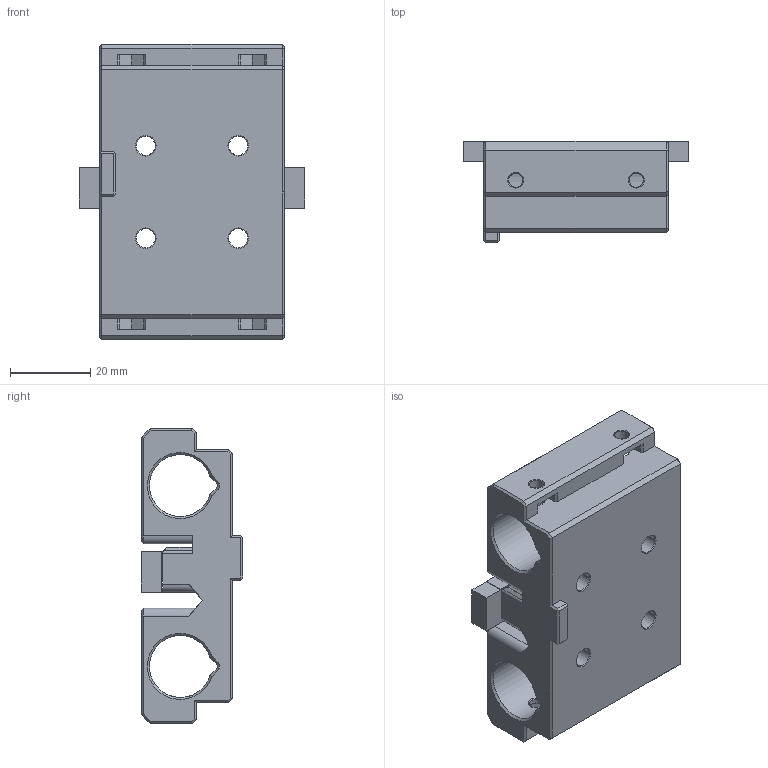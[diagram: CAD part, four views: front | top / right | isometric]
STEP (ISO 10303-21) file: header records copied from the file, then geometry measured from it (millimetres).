
FILE_DESCRIPTION(('CATIA V5 STEP Exchange'),'2;1');
FILE_NAME('D:\_이전 노트북\Cremaker모델링\Cremaker_profile-Metal(5차)-(Final)\(1.8)X-carriage.stp','2020-10-23T05:19:17+00:00',('none'),('none'),'CATIA Version 5 Release 20 GA (IN-10)','CATIA V5 STEP AP203','none');
FILE_SCHEMA(('CONFIG_CONTROL_DESIGN'));
Length unit declared in the file: millimetre
Products named in the file (1): (1.8)X-carriage
Bounding box: 56 x 25.2 x 73.4 mm (x, y, z)
Volume: 46794.4 mm3; surface area: 21806.6 mm2
Topology: 3 solids, 5 shells, 343 faces, 878 edges, 551 vertices
Faces by surface type: plane 188, cone 60, cylinder 44, extrusion 43, bspline 8
Entity records: 11794 total; most frequent: CARTESIAN_POINT 4046, ORIENTED_EDGE 1750, DIRECTION 1222, EDGE_CURVE 875, VECTOR 622, LINE 579, VERTEX_POINT 546, EDGE_LOOP 375
